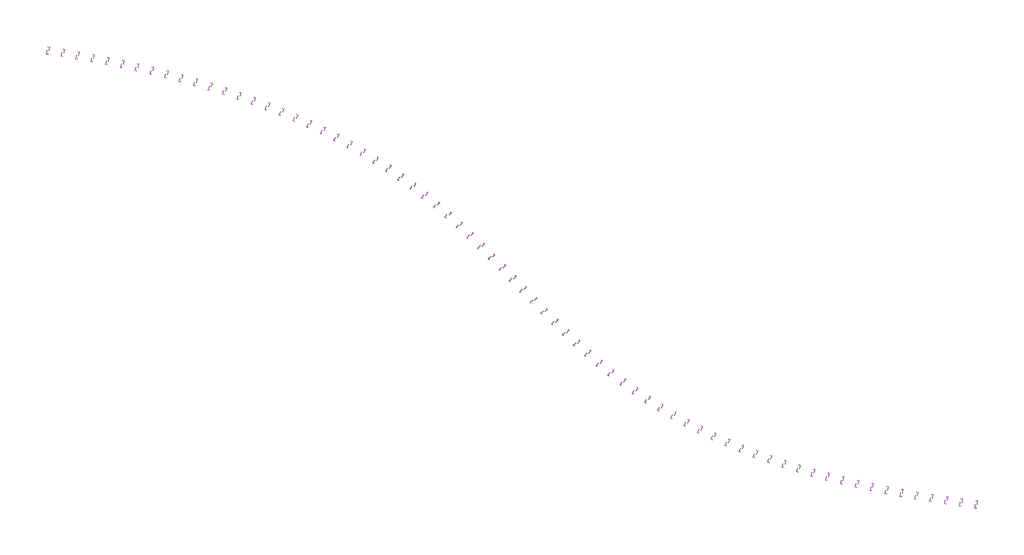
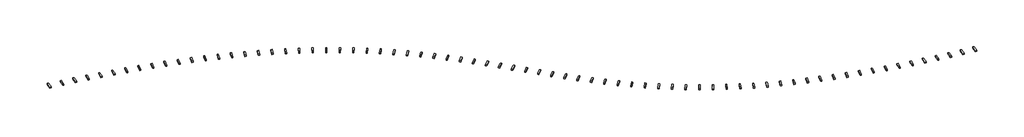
# One storey: 71 proxies.
"""IFC4 building model written with IfcOpenShell, lengths in millimetres."""

from ifc_helpers import new_model, si_unit, origin, place, context, project, spatial, transform, mapped, element, save
from components import generic_models_9758f732

model = new_model("IFC4")

# Units and contexts
model_context = context("Model", 3, world=origin())
ifc_project = project(units=[si_unit("LENGTHUNIT", "METRE", prefix="MILLI")], contexts=[model_context])

# Site, building, storey
site = spatial("IfcSite", under=ifc_project)
building = spatial("IfcBuilding", under=site)
storey = spatial("IfcBuildingStorey", under=building, Name="标高 1", Elevation=0.0)

# Proxies
placement = place(None, origin())
generic_models_shape = generic_models_9758f732(model_context)
element("IfcBuildingElementProxy", 1, Name="Dynamo自动放置和旋转构件 : Dynamo自动放置和旋转构件", ObjectType="Dynamo自动放置和旋转构件 : Dynamo自动放置和旋转构件", at=placement, inside=storey, context=model_context, shape_type="MappedRepresentation", body=[
    mapped(generic_models_shape, transform((-414296.5373962, 18761.4691188, 4000.0), x_axis=(0.9876883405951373, -0.15643446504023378, 0.0), y_axis=(0.15643446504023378, 0.9876883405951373, 0.0), z_axis=(0.0, 0.0, 1.0))),
])
element("IfcBuildingElementProxy", 2, Name="Dynamo自动放置和旋转构件 : Dynamo自动放置和旋转构件", ObjectType="Dynamo自动放置和旋转构件 : Dynamo自动放置和旋转构件", at=placement, inside=storey, context=model_context, shape_type="MappedRepresentation", body=[
    mapped(generic_models_shape, transform((-404427.2210097, 17150.3103194, 4000.0), x_axis=(0.9861473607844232, -0.16587158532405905, 0.0), y_axis=(0.16587158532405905, 0.9861473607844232, 0.0), z_axis=(0.0, 0.0, 1.0))),
])
element("IfcBuildingElementProxy", 3, Name="Dynamo自动放置和旋转构件 : Dynamo自动放置和旋转构件", ObjectType="Dynamo自动放置和旋转构件 : Dynamo自动放置和旋转构件", at=placement, inside=storey, context=model_context, shape_type="MappedRepresentation", body=[
    mapped(generic_models_shape, transform((-394574.1727344, 15442.505069, 4000.0), x_axis=(0.9844315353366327, -0.17576846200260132, 0.0), y_axis=(0.17576846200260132, 0.9844315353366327, 0.0), z_axis=(0.0, 0.0, 1.0))),
])
element("IfcBuildingElementProxy", 4, Name="Dynamo自动放置和旋转构件 : Dynamo自动放置和旋转构件", ObjectType="Dynamo自动放置和旋转构件 : Dynamo自动放置和旋转构件", at=placement, inside=storey, context=model_context, shape_type="MappedRepresentation", body=[
    mapped(generic_models_shape, transform((-384739.2405628, 13633.3119385, 4000.0), x_axis=(0.9825205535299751, -0.18615413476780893, 0.0), y_axis=(0.18615413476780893, 0.9825205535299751, 0.0), z_axis=(0.0, 0.0, 1.0))),
])
element("IfcBuildingElementProxy", 5, Name="Dynamo自动放置和旋转构件 : Dynamo自动放置和旋转构件", ObjectType="Dynamo自动放置和旋转构件 : Dynamo自动放置和旋转构件", at=placement, inside=storey, context=model_context, shape_type="MappedRepresentation", body=[
    mapped(generic_models_shape, transform((-374924.4879836, 11717.6911445, 4000.0), x_axis=(0.9803915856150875, -0.19705922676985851, 0.0), y_axis=(0.19705922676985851, 0.9803915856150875, 0.0), z_axis=(0.0, 0.0, 1.0))),
])
element("IfcBuildingElementProxy", 6, Name="Dynamo自动放置和旋转构件 : Dynamo自动放置和旋转构件", ObjectType="Dynamo自动放置和旋转构件 : Dynamo自动放置和旋转构件", at=placement, inside=storey, context=model_context, shape_type="MappedRepresentation", body=[
    mapped(generic_models_shape, transform((-365132.2206047, 9690.2891315, 4000.0), x_axis=(0.9780189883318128, -0.20851584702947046, 0.0), y_axis=(0.20851584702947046, 0.9780189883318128, 0.0), z_axis=(0.0, 0.0, 1.0))),
])
element("IfcBuildingElementProxy", 7, Name="Dynamo自动放置和旋转构件 : Dynamo自动放置和旋转构件", ObjectType="Dynamo自动放置和旋转构件 : Dynamo自动放置和旋转构件", at=placement, inside=storey, context=model_context, shape_type="MappedRepresentation", body=[
    mapped(generic_models_shape, transform((-355365.0158449, 7545.4244214, 4000.0), x_axis=(0.975373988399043, -0.22055743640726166, 0.0), y_axis=(0.22055743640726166, 0.975373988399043, 0.0), z_axis=(0.0, 0.0, 1.0))),
])
element("IfcBuildingElementProxy", 8, Name="Dynamo自动放置和旋转构件 : Dynamo自动放置和旋转构件", ObjectType="Dynamo自动放置和旋转构件 : Dynamo自动放置和旋转构件", at=placement, inside=storey, context=model_context, shape_type="MappedRepresentation", body=[
    mapped(generic_models_shape, transform((-345625.7558317, 5277.0755887, 4000.0), x_axis=(0.9724243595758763, -0.23321849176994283, 0.0), y_axis=(0.23321849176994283, 0.9724243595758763, 0.0), z_axis=(0.0, 0.0, 1.0))),
])
element("IfcBuildingElementProxy", 9, Name="Dynamo自动放置和旋转构件 : Dynamo自动放置和旋转构件", ObjectType="Dynamo自动放置和旋转构件 : Dynamo自动放置和旋转构件", at=placement, inside=storey, context=model_context, shape_type="MappedRepresentation", body=[
    mapped(generic_models_shape, transform((-335917.6636339, 2878.8725076, 4000.0), x_axis=(0.9691340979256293, -0.24653417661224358, 0.0), y_axis=(0.24653417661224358, 0.9691340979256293, 0.0), z_axis=(0.0, 0.0, 1.0))),
])
element("IfcBuildingElementProxy", 10, Name="Dynamo自动放置和旋转构件 : Dynamo自动放置和旋转构件", ObjectType="Dynamo自动放置和旋转构件 : Dynamo自动放置和旋转构件", at=placement, inside=storey, context=model_context, shape_type="MappedRepresentation", body=[
    mapped(generic_models_shape, transform((-326244.3424243, 344.0922627, 4000.0), x_axis=(0.9654631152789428, -0.2605397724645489, 0.0), y_axis=(0.2605397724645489, 0.9654631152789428, 0.0), z_axis=(0.0, 0.0, 1.0))),
])
element("IfcBuildingElementProxy", 11, Name="Dynamo自动放置和旋转构件 : Dynamo自动放置和旋转构件", ObjectType="Dynamo自动放置和旋转构件 : Dynamo自动放置和旋转构件", at=placement, inside=storey, context=model_context, shape_type="MappedRepresentation", body=[
    mapped(generic_models_shape, transform((-316609.8179766, -2334.3382159, 4000.0), x_axis=(0.9613669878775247, -0.2752698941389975, 0.0), y_axis=(0.2752698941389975, 0.9613669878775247, 0.0), z_axis=(0.0, 0.0, 1.0))),
])
element("IfcBuildingElementProxy", 12, Name="Dynamo自动放置和旋转构件 : Dynamo自动放置和旋转构件", ObjectType="Dynamo自动放置和旋转构件 : Dynamo自动放置和旋转构件", at=placement, inside=storey, context=model_context, shape_type="MappedRepresentation", body=[
    mapped(generic_models_shape, transform((-307018.5824502, -5163.8307897, 4000.0), x_axis=(0.9567967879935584, -0.2907574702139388, 0.0), y_axis=(0.2907574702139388, 0.9567967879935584, 0.0), z_axis=(0.0, 0.0, 1.0))),
])
element("IfcBuildingElementProxy", 13, Name="Dynamo自动放置和旋转构件 : Dynamo自动放置和旋转构件", ObjectType="Dynamo自动放置和旋转构件 : Dynamo自动放置和旋转构件", at=placement, inside=storey, context=model_context, shape_type="MappedRepresentation", body=[
    mapped(generic_models_shape, transform((-297475.6401092, -8152.112617, 4000.0), x_axis=(0.9516990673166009, -0.30703238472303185, 0.0), y_axis=(0.30703238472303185, 0.9516990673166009, 0.0), z_axis=(0.0, 0.0, 1.0))),
])
element("IfcBuildingElementProxy", 14, Name="Dynamo自动放置和旋转构件 : Dynamo自动放置和旋转构件", ObjectType="Dynamo自动放置和旋转构件 : Dynamo自动放置和旋转构件", at=placement, inside=storey, context=model_context, shape_type="MappedRepresentation", body=[
    mapped(generic_models_shape, transform((-287986.5515683, -11307.1873985, 4000.0), x_axis=(0.9460160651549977, -0.3241197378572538, 0.0), y_axis=(0.3241197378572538, 0.9460160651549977, 0.0), z_axis=(0.0, 0.0, 1.0))),
])
element("IfcBuildingElementProxy", 15, Name="Dynamo自动放置和旋转构件 : Dynamo自动放置和旋转构件", ObjectType="Dynamo自动放置和旋转构件 : Dynamo自动放置和旋转构件", at=placement, inside=storey, context=model_context, shape_type="MappedRepresentation", body=[
    mapped(generic_models_shape, transform((-278557.4745662, -14637.2769786, 4000.0), x_axis=(0.9396862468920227, -0.3420376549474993, 0.0), y_axis=(0.3420376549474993, 0.9396862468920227, 0.0), z_axis=(0.0, 0.0, 1.0))),
])
element("IfcBuildingElementProxy", 16, Name="Dynamo自动放置和旋转构件 : Dynamo自动放置和旋转构件", ObjectType="Dynamo自动放置和旋转构件 : Dynamo自动放置和旋转构件", at=placement, inside=storey, context=model_context, shape_type="MappedRepresentation", body=[
    mapped(generic_models_shape, transform((-269195.1969613, -18150.7386345, 4000.0), x_axis=(0.9326453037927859, -0.3607945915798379, 0.0), y_axis=(0.3607945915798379, 0.9326453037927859, 0.0), z_axis=(0.0, 0.0, 1.0))),
])
element("IfcBuildingElementProxy", 17, Name="Dynamo自动放置和旋转构件 : Dynamo自动放置和旋转构件", ObjectType="Dynamo自动放置和旋转构件 : Dynamo自动放置和旋转构件", at=placement, inside=storey, context=model_context, shape_type="MappedRepresentation", body=[
    mapped(generic_models_shape, transform((-259907.1572355, -21855.9525639, 4000.0), x_axis=(0.9248277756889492, -0.3803861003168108, 0.0), y_axis=(0.3803861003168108, 0.9248277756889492, 0.0), z_axis=(0.0, 0.0, 1.0))),
])
element("IfcBuildingElementProxy", 18, Name="Dynamo自动放置和旋转构件 : Dynamo自动放置和旋转构件", ObjectType="Dynamo自动放置和旋转构件 : Dynamo自动放置和旋转构件", at=placement, inside=storey, context=model_context, shape_type="MappedRepresentation", body=[
    mapped(generic_models_shape, transform((-250701.4445053, -25761.1744762, 4000.0), x_axis=(0.9161694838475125, -0.4007910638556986, 0.0), y_axis=(0.4007910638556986, 0.9161694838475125, 0.0), z_axis=(0.0, 0.0, 1.0))),
])
element("IfcBuildingElementProxy", 19, Name="Dynamo自动放置和旋转构件 : Dynamo自动放置和旋转构件", ObjectType="Dynamo自动放置和旋转构件 : Dynamo自动放置和旋转构件", at=placement, inside=storey, context=model_context, shape_type="MappedRepresentation", body=[
    mapped(generic_models_shape, transform((-241586.7693306, -29874.348182, 4000.0), x_axis=(0.9066109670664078, -0.4219674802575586, 0.0), y_axis=(0.4219674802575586, 0.9066109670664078, 0.0), z_axis=(0.0, 0.0, 1.0))),
])
element("IfcBuildingElementProxy", 20, Name="Dynamo自动放置和旋转构件 : Dynamo自动放置和旋转构件", ObjectType="Dynamo自动放置和旋转构件 : Dynamo自动放置和旋转构件", at=placement, inside=storey, context=model_context, shape_type="MappedRepresentation", body=[
    mapped(generic_models_shape, transform((-232572.3945884, -34202.874248, 4000.0), x_axis=(0.8961021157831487, -0.4438479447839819, 0.0), y_axis=(0.4438479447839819, 0.8961021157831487, 0.0), z_axis=(0.0, 0.0, 1.0))),
])
element("IfcBuildingElementProxy", 21, Name="Dynamo自动放置和旋转构件 : Dynamo自动放置和旋转构件", ObjectType="Dynamo自动放置和旋转构件 : Dynamo自动放置和旋转构件", at=placement, inside=storey, context=model_context, shape_type="MappedRepresentation", body=[
    mapped(generic_models_shape, transform((-223668.0133712, -38753.3334084, 4000.0), x_axis=(0.8846081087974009, -0.46633517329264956, 0.0), y_axis=(0.46633517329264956, 0.8846081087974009, 0.0), z_axis=(0.0, 0.0, 1.0))),
])
element("IfcBuildingElementProxy", 22, Name="Dynamo自动放置和旋转构件 : Dynamo自动放置和旋转构件", ObjectType="Dynamo自动放置和旋转构件 : Dynamo自动放置和旋转构件", at=placement, inside=storey, context=model_context, shape_type="MappedRepresentation", body=[
    mapped(generic_models_shape, transform((-214883.5605919, -43531.1669761, 4000.0), x_axis=(0.8721166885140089, -0.48929794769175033, 0.0), y_axis=(0.48929794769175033, 0.8721166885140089, 0.0), z_axis=(0.0, 0.0, 1.0))),
])
element("IfcBuildingElementProxy", 23, Name="Dynamo自动放置和旋转构件 : Dynamo自动放置和旋转构件", ObjectType="Dynamo自动放置和旋转构件 : Dynamo自动放置和旋转构件", at=placement, inside=storey, context=model_context, shape_type="MappedRepresentation", body=[
    mapped(generic_models_shape, transform((-206228.9464259, -48540.3213389, 4000.0), x_axis=(0.858646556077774, -0.5125681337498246, 0.0), y_axis=(0.5125681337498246, 0.858646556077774, 0.0), z_axis=(0.0, 0.0, 1.0))),
])
element("IfcBuildingElementProxy", 24, Name="Dynamo自动放置和旋转构件 : Dynamo自动放置和旋转构件", ObjectType="Dynamo自动放置和旋转构件 : Dynamo自动放置和旋转构件", at=placement, inside=storey, context=model_context, shape_type="MappedRepresentation", body=[
    mapped(generic_models_shape, transform((-197713.7015562, -53782.8708355, 4000.0), x_axis=(0.8442564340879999, -0.5359394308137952, 0.0), y_axis=(0.5359394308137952, 0.8442564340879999, 0.0), z_axis=(0.0, 0.0, 1.0))),
])
element("IfcBuildingElementProxy", 25, Name="Dynamo自动放置和旋转构件 : Dynamo自动放置和旋转构件", ObjectType="Dynamo自动放置和旋转构件 : Dynamo自动放置和旋转构件", at=placement, inside=storey, context=model_context, shape_type="MappedRepresentation", body=[
    mapped(generic_models_shape, transform((-189346.5318012, -59258.6398035, 4000.0), x_axis=(0.8290539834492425, -0.5591685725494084, 0.0), y_axis=(0.5591685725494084, 0.8290539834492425, 0.0), z_axis=(0.0, 0.0, 1.0))),
])
element("IfcBuildingElementProxy", 26, Name="Dynamo自动放置和旋转构件 : Dynamo自动放置和旋转构件", ObjectType="Dynamo自动放置和旋转构件 : Dynamo自动放置和旋转构件", at=placement, inside=storey, context=model_context, shape_type="MappedRepresentation", body=[
    mapped(generic_models_shape, transform((-181134.7891097, -64964.851236, 4000.0), x_axis=(0.8132034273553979, -0.5819795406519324, 0.0), y_axis=(0.5819795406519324, 0.8132034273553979, 0.0), z_axis=(0.0, 0.0, 1.0))),
])
element("IfcBuildingElementProxy", 27, Name="Dynamo自动放置和旋转构件 : Dynamo自动放置和旋转构件", ObjectType="Dynamo自动放置和旋转构件 : Dynamo自动放置和旋转构件", at=placement, inside=storey, context=model_context, shape_type="MappedRepresentation", body=[
    mapped(generic_models_shape, transform((-173083.8782154, -70895.8339831, 4000.0), x_axis=(0.7969304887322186, -0.6040710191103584, 0.0), y_axis=(0.6040710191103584, 0.7969304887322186, 0.0), z_axis=(0.0, 0.0, 1.0))),
])
element("IfcBuildingElementProxy", 28, Name="Dynamo自动放置和旋转构件 : Dynamo自动放置和旋转构件", ObjectType="Dynamo自动放置和旋转构件 : Dynamo自动放置和旋转构件", at=placement, inside=storey, context=model_context, shape_type="MappedRepresentation", body=[
    mapped(generic_models_shape, transform((-165196.6336637, -77042.8195711, 4000.0), x_axis=(0.7805232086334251, -0.6251268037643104, 0.0), y_axis=(0.6251268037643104, 0.7805232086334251, 0.0), z_axis=(0.0, 0.0, 1.0))),
])
element("IfcBuildingElementProxy", 29, Name="Dynamo自动放置和旋转构件 : Dynamo自动放置和旋转构件", ObjectType="Dynamo自动放置和旋转构件 : Dynamo自动放置和旋转构件", at=placement, inside=storey, context=model_context, shape_type="MappedRepresentation", body=[
    mapped(generic_models_shape, transform((-157472.7141648, -83393.8545413, 4000.0), x_axis=(0.7643274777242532, -0.6448282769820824, 0.0), y_axis=(0.6448282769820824, 0.7643274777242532, 0.0), z_axis=(0.0, 0.0, 1.0))),
])
element("IfcBuildingElementProxy", 30, Name="Dynamo自动放置和旋转构件 : Dynamo自动放置和旋转构件", ObjectType="Dynamo自动放置和旋转构件 : Dynamo自动放置和旋转构件", at=placement, inside=storey, context=model_context, shape_type="MappedRepresentation", body=[
    mapped(generic_models_shape, transform((-149908.0711499, -89933.8417747, 4000.0), x_axis=(0.7487367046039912, -0.6628675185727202, 0.0), y_axis=(0.6628675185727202, 0.7487367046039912, 0.0), z_axis=(0.0, 0.0, 1.0))),
])
element("IfcBuildingElementProxy", 31, Name="Dynamo自动放置和旋转构件 : Dynamo自动放置和旋转构件", ObjectType="Dynamo自动放置和旋转构件 : Dynamo自动放置和旋转构件", at=placement, inside=storey, context=model_context, shape_type="MappedRepresentation", body=[
    mapped(generic_models_shape, transform((-142494.5482373, -96644.7098724, 4000.0), x_axis=(0.7341758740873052, -0.6789593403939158, 0.0), y_axis=(0.6789593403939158, 0.7341758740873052, 0.0), z_axis=(0.0, 0.0, 1.0))),
])
element("IfcBuildingElementProxy", 32, Name="Dynamo自动放置和旋转构件 : Dynamo自动放置和旋转构件", ObjectType="Dynamo自动放置和旋转构件 : Dynamo自动放置和旋转构件", at=placement, inside=storey, context=model_context, shape_type="MappedRepresentation", body=[
    mapped(generic_models_shape, transform((-135219.6654079, -103505.6892661, 4000.0), x_axis=(0.7210811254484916, -0.6928506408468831, 0.0), y_axis=(0.6928506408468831, 0.7210811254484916, 0.0), z_axis=(0.0, 0.0, 1.0))),
])
element("IfcBuildingElementProxy", 33, Name="Dynamo自动放置和旋转构件 : Dynamo自动放置和旋转构件", ObjectType="Dynamo自动放置和旋转构件 : Dynamo自动放置和旋转构件", at=placement, inside=storey, context=model_context, shape_type="MappedRepresentation", body=[
    mapped(generic_models_shape, transform((-128066.620844, -110493.6652251, 4000.0), x_axis=(0.7098766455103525, -0.7043260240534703, 0.0), y_axis=(0.7043260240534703, 0.7098766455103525, 0.0), z_axis=(0.0, 0.0, 1.0))),
])
element("IfcBuildingElementProxy", 34, Name="Dynamo自动放置和旋转构件 : Dynamo自动放置和旋转构件", ObjectType="Dynamo自动放置和旋转构件 : Dynamo自动放置和旋转构件", at=placement, inside=storey, context=model_context, shape_type="MappedRepresentation", body=[
    mapped(generic_models_shape, transform((-121014.5299403, -117583.5657289, 4000.0), x_axis=(0.7009509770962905, -0.713209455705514, 0.0), y_axis=(0.713209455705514, 0.7009509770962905, 0.0), z_axis=(0.0, 0.0, 1.0))),
])
element("IfcBuildingElementProxy", 35, Name="Dynamo自动放置和旋转构件 : Dynamo自动放置和旋转构件", ObjectType="Dynamo自动放置和旋转构件 : Dynamo自动放置和旋转构件", at=placement, inside=storey, context=model_context, shape_type="MappedRepresentation", body=[
    mapped(generic_models_shape, transform((-114038.8946805, -124748.7497297, 4000.0), x_axis=(0.694634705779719, -0.7193626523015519, 0.0), y_axis=(0.7193626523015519, 0.694634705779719, 0.0), z_axis=(0.0, 0.0, 1.0))),
])
element("IfcBuildingElementProxy", 36, Name="Dynamo自动放置和旋转构件 : Dynamo自动放置和旋转构件", ObjectType="Dynamo自动放置和旋转构件 : Dynamo自动放置和旋转构件", at=placement, inside=storey, context=model_context, shape_type="MappedRepresentation", body=[
    mapped(generic_models_shape, transform((-107112.2833702, -131961.3679456, 4000.0), x_axis=(0.6911810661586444, -0.7226816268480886, 0.0), y_axis=(0.7226816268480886, 0.6911810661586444, 0.0), z_axis=(0.0, 0.0, 1.0))),
])
element("IfcBuildingElementProxy", 37, Name="Dynamo自动放置和旋转构件 : Dynamo自动放置和旋转构件", ObjectType="Dynamo自动放置和旋转构件 : Dynamo自动放置和旋转构件", at=placement, inside=storey, context=model_context, shape_type="MappedRepresentation", body=[
    mapped(generic_models_shape, transform((-100205.1849228, -139192.6876854, 4000.0), x_axis=(0.6907504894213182, -0.7230931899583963, 0.0), y_axis=(0.7230931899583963, 0.6907504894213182, 0.0), z_axis=(0.0, 0.0, 1.0))),
])
element("IfcBuildingElementProxy", 38, Name="Dynamo自动放置和旋转构件 : Dynamo自动放置和旋转构件", ObjectType="Dynamo自动放置和旋转构件 : Dynamo自动放置和旋转构件", at=placement, inside=storey, context=model_context, shape_type="MappedRepresentation", body=[
    mapped(generic_models_shape, transform((-93286.9952953, -146413.3896865, 4000.0), x_axis=(0.693399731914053, -0.7205531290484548, 0.0), y_axis=(0.7205531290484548, 0.693399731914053, 0.0), z_axis=(0.0, 0.0, 1.0))),
])
element("IfcBuildingElementProxy", 39, Name="Dynamo自动放置和旋转构件 : Dynamo自动放置和旋转构件", ObjectType="Dynamo自动放置和旋转构件 : Dynamo自动放置和旋转构件", at=placement, inside=storey, context=model_context, shape_type="MappedRepresentation", body=[
    mapped(generic_models_shape, transform((-86327.0876759, -153593.8605522, 4000.0), x_axis=(0.6990760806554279, -0.7150472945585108, 0.0), y_axis=(0.7150472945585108, 0.6990760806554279, 0.0), z_axis=(0.0, 0.0, 1.0))),
])
element("IfcBuildingElementProxy", 40, Name="Dynamo自动放置和旋转构件 : Dynamo自动放置和旋转构件", ObjectType="Dynamo自动放置和旋转构件 : Dynamo自动放置和旋转构件", at=placement, inside=storey, context=model_context, shape_type="MappedRepresentation", body=[
    mapped(generic_models_shape, transform((-79295.9128936, -160704.5127693, 4000.0), x_axis=(0.7076171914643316, -0.7065960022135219, 0.0), y_axis=(0.7065960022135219, 0.7076171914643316, 0.0), z_axis=(0.0, 0.0, 1.0))),
])
element("IfcBuildingElementProxy", 41, Name="Dynamo自动放置和旋转构件 : Dynamo自动放置和旋转构件", ObjectType="Dynamo自动放置和旋转构件 : Dynamo自动放置和旋转构件", at=placement, inside=storey, context=model_context, shape_type="MappedRepresentation", body=[
    mapped(generic_models_shape, transform((-72166.070689, -167716.1632005, 4000.0), x_axis=(0.7187572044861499, -0.695261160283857, 0.0), y_axis=(0.695261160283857, 0.7187572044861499, 0.0), z_axis=(0.0, 0.0, 1.0))),
])
element("IfcBuildingElementProxy", 42, Name="Dynamo自动放置和旋转构件 : Dynamo自动放置和旋转构件", ObjectType="Dynamo自动放置和旋转构件 : Dynamo自动放置和旋转构件", at=placement, inside=storey, context=model_context, shape_type="MappedRepresentation", body=[
    mapped(generic_models_shape, transform((-64913.2860471, -174600.4903496, 4000.0), x_axis=(0.732139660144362, -0.6811545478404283, 0.0), y_axis=(0.6811545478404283, 0.732139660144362, 0.0), z_axis=(0.0, 0.0, 1.0))),
])
element("IfcBuildingElementProxy", 43, Name="Dynamo自动放置和旋转构件 : Dynamo自动放置和旋转构件", ObjectType="Dynamo自动放置和旋转构件 : Dynamo自动放置和旋转构件", at=placement, inside=storey, context=model_context, shape_type="MappedRepresentation", body=[
    mapped(generic_models_shape, transform((-57517.2220768, -181330.5707128, 4000.0), x_axis=(0.7473372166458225, -0.664444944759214, 0.0), y_axis=(0.664444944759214, 0.7473372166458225, 0.0), z_axis=(0.0, 0.0, 1.0))),
])
element("IfcBuildingElementProxy", 44, Name="Dynamo自动放置和旋转构件 : Dynamo自动放置和旋转构件", ObjectType="Dynamo自动放置和旋转构件 : Dynamo自动放置和旋转构件", at=placement, inside=storey, context=model_context, shape_type="MappedRepresentation", body=[
    mapped(generic_models_shape, transform((-49962.0651696, -187881.4701761, 4000.0), x_axis=(0.7638772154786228, -0.645361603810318, 0.0), y_axis=(0.645361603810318, 0.7638772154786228, 0.0), z_axis=(0.0, 0.0, 1.0))),
])
element("IfcBuildingElementProxy", 45, Name="Dynamo自动放置和旋转构件 : Dynamo自动放置和旋转构件", ObjectType="Dynamo自动放置和旋转构件 : Dynamo自动放置和旋转构件", at=placement, inside=storey, context=model_context, shape_type="MappedRepresentation", body=[
    mapped(generic_models_shape, transform((-42236.8334859, -194230.8431159, 4000.0), x_axis=(0.7812709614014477, -0.6241920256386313, 0.0), y_axis=(0.6241920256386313, 0.7812709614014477, 0.0), z_axis=(0.0, 0.0, 1.0))),
])
element("IfcBuildingElementProxy", 46, Name="Dynamo自动放置和旋转构件 : Dynamo自动放置和旋转构件", ObjectType="Dynamo自动放置和旋转构件 : Dynamo自动放置和旋转构件", at=placement, inside=storey, context=model_context, shape_type="MappedRepresentation", body=[
    mapped(generic_models_shape, transform((-34335.3876048, -200359.4757769, 4000.0), x_axis=(0.7990435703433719, -0.6012731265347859, 0.0), y_axis=(0.6012731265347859, 0.7990435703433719, 0.0), z_axis=(0.0, 0.0, 1.0))),
])
element("IfcBuildingElementProxy", 47, Name="Dynamo自动放置和旋转构件 : Dynamo自动放置和旋转构件", ObjectType="Dynamo自动放置和旋转构件 : Dynamo自动放置和旋转构件", at=placement, inside=storey, context=model_context, shape_type="MappedRepresentation", body=[
    mapped(generic_models_shape, transform((-26256.1535017, -206251.711061, 4000.0), x_axis=(0.8167608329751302, -0.5769763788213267, 0.0), y_axis=(0.5769763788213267, 0.8167608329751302, 0.0), z_axis=(0.0, 0.0, 1.0))),
])
element("IfcBuildingElementProxy", 48, Name="Dynamo自动放置和旋转构件 : Dynamo自动放置和旋转构件", ObjectType="Dynamo自动放置和旋转构件 : Dynamo自动放置和旋转构件", at=placement, inside=storey, context=model_context, shape_type="MappedRepresentation", body=[
    mapped(generic_models_shape, transform((-18001.6063915, -211895.7014933, 4000.0), x_axis=(0.8340499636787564, -0.5516889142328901, 0.0), y_axis=(0.5516889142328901, 0.8340499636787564, 0.0), z_axis=(0.0, 0.0, 1.0))),
])
element("IfcBuildingElementProxy", 49, Name="Dynamo自动放置和旋转构件 : Dynamo自动放置和旋转构件", ObjectType="Dynamo自动放置和旋转构件 : Dynamo自动放置和旋转构件", at=placement, inside=storey, context=model_context, shape_type="MappedRepresentation", body=[
    mapped(generic_models_shape, transform((-9577.5857, -217283.4652162, 4000.0), x_axis=(0.85061229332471, -0.5257934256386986, 0.0), y_axis=(0.5257934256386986, 0.85061229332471, 0.0), z_axis=(0.0, 0.0, 1.0))),
])
element("IfcBuildingElementProxy", 50, Name="Dynamo自动放置和旋转构件 : Dynamo自动放置和旋转构件", ObjectType="Dynamo自动放置和旋转构件 : Dynamo自动放置和旋转构件", at=placement, inside=storey, context=model_context, shape_type="MappedRepresentation", body=[
    mapped(generic_models_shape, transform((-992.5259322, -222410.7469121, 4000.0), x_axis=(0.8662275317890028, -0.499649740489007, 0.0), y_axis=(0.499649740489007, 0.8662275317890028, 0.0), z_axis=(0.0, 0.0, 1.0))),
])
element("IfcBuildingElementProxy", 51, Name="Dynamo自动放置和旋转构件 : Dynamo自动放置和旋转构件", ObjectType="Dynamo自动放置和旋转构件 : Dynamo自动放置和旋转构件", at=placement, inside=storey, context=model_context, shape_type="MappedRepresentation", body=[
    mapped(generic_models_shape, transform((7743.3170104, -227276.7128438, 4000.0), x_axis=(0.8807506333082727, -0.473580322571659, 0.0), y_axis=(0.473580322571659, 0.8807506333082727, 0.0), z_axis=(0.0, 0.0, 1.0))),
])
element("IfcBuildingElementProxy", 52, Name="Dynamo自动放置和旋转构件 : Dynamo自动放置和旋转构件", ObjectType="Dynamo自动放置和旋转构件 : Dynamo自动放置和旋转构件", at=placement, inside=storey, context=model_context, shape_type="MappedRepresentation", body=[
    mapped(generic_models_shape, transform((16618.5790484, -231883.5255828, 4000.0), x_axis=(0.8941032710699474, -0.44786084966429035, 0.0), y_axis=(0.44786084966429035, 0.8941032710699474, 0.0), z_axis=(0.0, 0.0, 1.0))),
])
element("IfcBuildingElementProxy", 53, Name="Dynamo自动放置和旋转构件 : Dynamo自动放置和旋转构件", ObjectType="Dynamo自动放置和旋转构件 : Dynamo自动放置和旋转构件", at=placement, inside=storey, context=model_context, shape_type="MappedRepresentation", body=[
    mapped(generic_models_shape, transform((25621.398736, -236235.8508733, 4000.0), x_axis=(0.906262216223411, -0.4227159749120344, 0.0), y_axis=(0.4227159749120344, 0.906262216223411, 0.0), z_axis=(0.0, 0.0, 1.0))),
])
element("IfcBuildingElementProxy", 54, Name="Dynamo自动放置和旋转构件 : Dynamo自动放置和旋转构件", ObjectType="Dynamo自动放置和旋转构件 : Dynamo自动放置和旋转构件", at=placement, inside=storey, context=model_context, shape_type="MappedRepresentation", body=[
    mapped(generic_models_shape, transform((34739.9052231, -240340.3451274, 4000.0), x_axis=(0.9172467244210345, -0.3983195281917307, 0.0), y_axis=(0.3983195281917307, 0.9172467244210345, 0.0), z_axis=(0.0, 0.0, 1.0))),
])
element("IfcBuildingElementProxy", 55, Name="Dynamo自动放置和旋转构件 : Dynamo自动放置和旋转构件", ObjectType="Dynamo自动放置和旋转构件 : Dynamo自动放置和旋转构件", at=placement, inside=storey, context=model_context, shape_type="MappedRepresentation", body=[
    mapped(generic_models_shape, transform((43962.5818629, -244205.1626304, 4000.0), x_axis=(0.9271064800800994, -0.3747980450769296, 0.0), y_axis=(0.3747980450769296, 0.9271064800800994, 0.0), z_axis=(0.0, 0.0, 1.0))),
])
element("IfcBuildingElementProxy", 56, Name="Dynamo自动放置和旋转构件 : Dynamo自动放置和旋转构件", ObjectType="Dynamo自动放置和旋转构件 : Dynamo自动放置和旋转构件", at=placement, inside=storey, context=model_context, shape_type="MappedRepresentation", body=[
    mapped(generic_models_shape, transform((53278.5164283, -247839.5091814, 4000.0), x_axis=(0.9359110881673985, -0.3522363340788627, 0.0), y_axis=(0.3522363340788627, 0.9359110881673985, 0.0), z_axis=(0.0, 0.0, 1.0))),
])
element("IfcBuildingElementProxy", 57, Name="Dynamo自动放置和旋转构件 : Dynamo自动放置和旋转构件", ObjectType="Dynamo自动放置和旋转构件 : Dynamo自动放置和旋转构件", at=placement, inside=storey, context=model_context, shape_type="MappedRepresentation", body=[
    mapped(generic_models_shape, transform((62677.5558235, -251253.2570902, 4000.0), x_axis=(0.9437415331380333, -0.33068401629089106, 0.0), y_axis=(0.33068401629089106, 0.9437415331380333, 0.0), z_axis=(0.0, 0.0, 1.0))),
])
element("IfcBuildingElementProxy", 58, Name="Dynamo自动放置和旋转构件 : Dynamo自动放置和旋转构件", ObjectType="Dynamo自动放置和旋转构件 : Dynamo自动放置和旋转构件", at=placement, inside=storey, context=model_context, shape_type="MappedRepresentation", body=[
    mapped(generic_models_shape, transform((72150.3859941, -254456.6269616, 4000.0), x_axis=(0.9506836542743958, -0.31016219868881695, 0.0), y_axis=(0.31016219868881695, 0.9506836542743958, 0.0), z_axis=(0.0, 0.0, 1.0))),
])
element("IfcBuildingElementProxy", 59, Name="Dynamo自动放置和旋转构件 : Dynamo自动放置和旋转构件", ObjectType="Dynamo自动放置和旋转构件 : Dynamo自动放置和旋转构件", at=placement, inside=storey, context=model_context, shape_type="MappedRepresentation", body=[
    mapped(generic_models_shape, transform((81688.5549076, -257459.9340877, 4000.0), x_axis=(0.9568234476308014, -0.2906697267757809, 0.0), y_axis=(0.2906697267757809, 0.9568234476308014, 0.0), z_axis=(0.0, 0.0, 1.0))),
])
element("IfcBuildingElementProxy", 60, Name="Dynamo自动放置和旋转构件 : Dynamo自动放置和旋转构件", ObjectType="Dynamo自动放置和旋转构件 : Dynamo自动放置和旋转构件", at=placement, inside=storey, context=model_context, shape_type="MappedRepresentation", body=[
    mapped(generic_models_shape, transform((91284.4577032, -260273.3943465, 4000.0), x_axis=(0.9622438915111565, -0.2721887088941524, 0.0), y_axis=(0.2721887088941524, 0.9622438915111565, 0.0), z_axis=(0.0, 0.0, 1.0))),
])
element("IfcBuildingElementProxy", 61, Name="Dynamo自动放置和旋转构件 : Dynamo自动放置和旋转构件", ObjectType="Dynamo自动放置和旋转构件 : Dynamo自动放置和旋转构件", at=placement, inside=storey, context=model_context, shape_type="MappedRepresentation", body=[
    mapped(generic_models_shape, transform((100931.2955331, -262906.9808167, 4000.0), x_axis=(0.9670229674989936, -0.2546891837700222, 0.0), y_axis=(0.2546891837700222, 0.9670229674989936, 0.0), z_axis=(0.0, 0.0, 1.0))),
])
element("IfcBuildingElementProxy", 62, Name="Dynamo自动放置和旋转构件 : Dynamo自动放置和旋转构件", ObjectType="Dynamo自动放置和旋转构件 : Dynamo自动放置和旋转构件", at=placement, inside=storey, context=model_context, shape_type="MappedRepresentation", body=[
    mapped(generic_models_shape, transform((110623.019544, -265370.3228298, 4000.0), x_axis=(0.9712325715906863, -0.23813292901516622, 0.0), y_axis=(0.23813292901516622, 0.9712325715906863, 0.0), z_axis=(0.0, 0.0, 1.0))),
])
element("IfcBuildingElementProxy", 63, Name="Dynamo自动放置和旋转构件 : Dynamo自动放置和旋转构件", ObjectType="Dynamo自动放置和旋转构件 : Dynamo自动放置和旋转构件", at=placement, inside=storey, context=model_context, shape_type="MappedRepresentation", body=[
    mapped(generic_models_shape, transform((120354.2673065, -267672.6390509, 4000.0), x_axis=(0.9749380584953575, -0.22247647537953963, 0.0), y_axis=(0.22247647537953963, 0.9749380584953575, 0.0), z_axis=(0.0, 0.0, 1.0))),
])
element("IfcBuildingElementProxy", 64, Name="Dynamo自动放置和旋转构件 : Dynamo自动放置和旋转构件", ObjectType="Dynamo自动放置和旋转构件 : Dynamo自动放置和旋转构件", at=placement, inside=storey, context=model_context, shape_type="MappedRepresentation", body=[
    mapped(generic_models_shape, transform((130120.296982, -269822.6971571, 4000.0), x_axis=(0.978198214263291, -0.20767343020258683, 0.0), y_axis=(0.20767343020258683, 0.978198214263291, 0.0), z_axis=(0.0, 0.0, 1.0))),
])
element("IfcBuildingElementProxy", 65, Name="Dynamo自动放置和旋转构件 : Dynamo自动放置和旋转构件", ObjectType="Dynamo自动放置和旋转构件 : Dynamo自动放置和旋转构件", at=placement, inside=storey, context=model_context, shape_type="MappedRepresentation", body=[
    mapped(generic_models_shape, transform((139916.9226945, -271828.7937652, 4000.0), x_axis=(0.9810655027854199, -0.19367622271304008, 0.0), y_axis=(0.19367622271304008, 0.9810655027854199, 0.0), z_axis=(0.0, 0.0, 1.0))),
])
element("IfcBuildingElementProxy", 66, Name="Dynamo自动放置和旋转构件 : Dynamo自动放置和旋转构件", ObjectType="Dynamo自动放置和旋转构件 : Dynamo自动放置和旋转构件", at=placement, inside=storey, context=model_context, shape_type="MappedRepresentation", body=[
    mapped(generic_models_shape, transform((149740.4532483, -273698.7493799, 4000.0), x_axis=(0.983586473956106, -0.18043738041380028, 0.0), y_axis=(0.18043738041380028, 0.983586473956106, 0.0), z_axis=(0.0, 0.0, 1.0))),
])
element("IfcBuildingElementProxy", 67, Name="Dynamo自动放置和旋转构件 : Dynamo自动放置和旋转构件", ObjectType="Dynamo自动放置和旋转构件 : Dynamo自动放置和旋转构件", at=placement, inside=storey, context=model_context, shape_type="MappedRepresentation", body=[
    mapped(generic_models_shape, transform((159587.6354175, -275439.9141774, 4000.0), x_axis=(0.9858022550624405, -0.16791043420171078, 0.0), y_axis=(0.16791043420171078, 0.9858022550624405, 0.0), z_axis=(0.0, 0.0, 1.0))),
])
element("IfcBuildingElementProxy", 68, Name="Dynamo自动放置和旋转构件 : Dynamo自动放置和旋转构件", ObjectType="Dynamo自动放置和旋转构件 : Dynamo自动放置和旋转构件", at=placement, inside=storey, context=model_context, shape_type="MappedRepresentation", body=[
    mapped(generic_models_shape, transform((169455.6022428, -277059.1813234, 4000.0), x_axis=(0.9877490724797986, -0.15605053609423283, 0.0), y_axis=(0.15605053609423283, 0.9877490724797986, 0.0), z_axis=(0.0, 0.0, 1.0))),
])
element("IfcBuildingElementProxy", 69, Name="Dynamo自动放置和旋转构件 : Dynamo自动放置和旋转构件", ObjectType="Dynamo自动放置和旋转构件 : Dynamo自动放置和旋转构件", at=placement, inside=storey, context=model_context, shape_type="MappedRepresentation", body=[
    mapped(generic_models_shape, transform((179341.8268978, -278563.0053779, 4000.0), x_axis=(0.989458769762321, -0.1448148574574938, 0.0), y_axis=(0.1448148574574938, 0.989458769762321, 0.0), z_axis=(0.0, 0.0, 1.0))),
])
element("IfcBuildingElementProxy", 70, Name="Dynamo自动放置和旋转构件 : Dynamo自动放置和旋转构件", ObjectType="Dynamo自动放置和旋转构件 : Dynamo自动放置和旋转构件", at=placement, inside=storey, context=model_context, shape_type="MappedRepresentation", body=[
    mapped(generic_models_shape, transform((189244.0808484, -279957.4237018, 4000.0), x_axis=(0.9909593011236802, -0.1341628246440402, 0.0), y_axis=(0.1341628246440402, 0.9909593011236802, 0.0), z_axis=(0.0, 0.0, 1.0))),
])
element("IfcBuildingElementProxy", 71, Name="Dynamo自动放置和旋转构件 : Dynamo自动放置和旋转构件", ObjectType="Dynamo自动放置和旋转构件 : Dynamo自动放置和旋转构件", at=placement, inside=storey, context=model_context, shape_type="MappedRepresentation", body=[
    mapped(generic_models_shape, transform((199160.3977168, -281248.0797344, 4000.0), x_axis=(0.992275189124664, -0.1240562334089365, 0.0), y_axis=(0.1240562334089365, 0.992275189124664, 0.0), z_axis=(0.0, 0.0, 1.0))),
])

save(model, "model.ifc")
